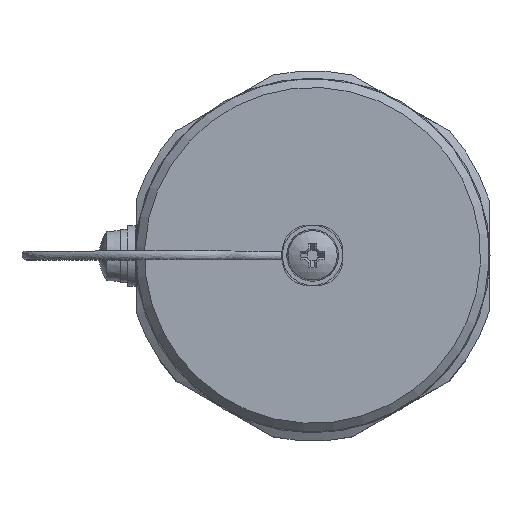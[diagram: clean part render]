
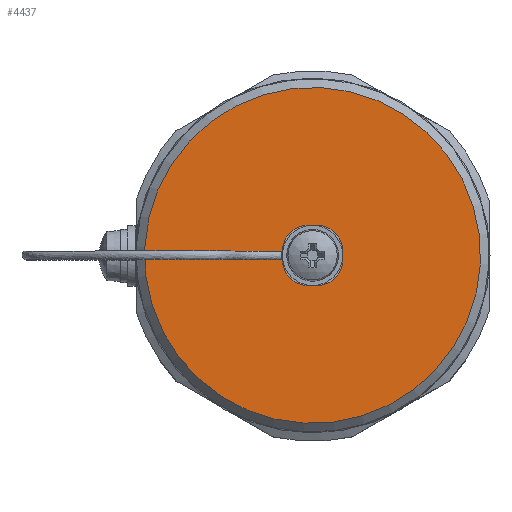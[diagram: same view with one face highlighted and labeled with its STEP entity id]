
A CAD part, top view. The second image highlights one B-rep face of the part: STEP entity #4437.
In plain terms, the highlighted planar face has unit normal (0, 0, 1).
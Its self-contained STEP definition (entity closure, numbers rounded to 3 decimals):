
#2 = CARTESIAN_POINT ( 'NONE',  ( -0.5, -0.5, 36. ) ) ;
#45 = CARTESIAN_POINT ( 'NONE',  ( 3.5, 0.5, 36. ) ) ;
#238 = AXIS2_PLACEMENT_3D ( 'NONE', #4214, #6870, #2459 ) ;
#267 = DIRECTION ( 'NONE',  ( 0., 0., 1. ) ) ;
#288 = CARTESIAN_POINT ( 'NONE',  ( -3.676, -0.491, 36. ) ) ;
#311 = CARTESIAN_POINT ( 'NONE',  ( -3.589, 0.5, 36. ) ) ;
#337 = CIRCLE ( 'NONE', #3531, 3. ) ;
#428 = DIRECTION ( 'NONE',  ( 1., 0., 0. ) ) ;
#473 = DIRECTION ( 'NONE',  ( -1., 0., 0. ) ) ;
#558 = DIRECTION ( 'NONE',  ( 1., 0., 0. ) ) ;
#579 = VERTEX_POINT ( 'NONE', #45 ) ;
#803 = CARTESIAN_POINT ( 'NONE',  ( 3.5, -0.5, 36. ) ) ;
#910 = EDGE_CURVE ( 'NONE', #1010, #5654, #2463, .T. ) ;
#1010 = VERTEX_POINT ( 'NONE', #1121 ) ;
#1121 = CARTESIAN_POINT ( 'NONE',  ( -0.5, 3.5, 36. ) ) ;
#1129 = VECTOR ( 'NONE', #428, 1000. ) ;
#1168 = CARTESIAN_POINT ( 'NONE',  ( -3.5, 0.5, 36. ) ) ;
#1196 = CARTESIAN_POINT ( 'NONE',  ( -18.641, -5.723, 36. ) ) ;
#1340 = CARTESIAN_POINT ( 'NONE',  ( -4.331, -0.09, 36. ) ) ;
#1391 = CARTESIAN_POINT ( 'NONE',  ( -4.167, 0.303, 36. ) ) ;
#1427 = ORIENTED_EDGE ( 'NONE', *, *, #1511, .F. ) ;
#1511 = EDGE_CURVE ( 'NONE', #6487, #2218, #5156, .T. ) ;
#1807 = CARTESIAN_POINT ( 'NONE',  ( 0.5, 0.5, 36. ) ) ;
#1829 = EDGE_CURVE ( 'NONE', #579, #2218, #6855, .T. ) ;
#1830 = CARTESIAN_POINT ( 'NONE',  ( -3.676, 0.491, 36. ) ) ;
#1846 = CARTESIAN_POINT ( 'NONE',  ( 0.5, -3.5, 36. ) ) ;
#1862 = VERTEX_POINT ( 'NONE', #1168 ) ;
#2009 = CARTESIAN_POINT ( 'NONE',  ( 0.5, -3.5, 36. ) ) ;
#2054 = AXIS2_PLACEMENT_3D ( 'NONE', #1807, #6759, #5158 ) ;
#2115 = ORIENTED_EDGE ( 'NONE', *, *, #6170, .F. ) ;
#2135 = CARTESIAN_POINT ( 'NONE',  ( 0., 0., 36. ) ) ;
#2218 = VERTEX_POINT ( 'NONE', #803 ) ;
#2219 = EDGE_CURVE ( 'NONE', #1862, #5497, #4252, .T. ) ;
#2320 = CARTESIAN_POINT ( 'NONE',  ( -4.328, 0.089, 36. ) ) ;
#2344 = FACE_OUTER_BOUND ( 'NONE', #3139, .T. ) ;
#2381 = VERTEX_POINT ( 'NONE', #1196 ) ;
#2427 = DIRECTION ( 'NONE',  ( 0.707, -0.707, 0. ) ) ;
#2439 = ORIENTED_EDGE ( 'NONE', *, *, #4682, .F. ) ;
#2459 = DIRECTION ( 'NONE',  ( -0.707, 0.707, 0. ) ) ;
#2463 = LINE ( 'NONE', #6367, #1129 ) ;
#2613 = EDGE_CURVE ( 'NONE', #6487, #3522, #2767, .T. ) ;
#2767 = LINE ( 'NONE', #2009, #4662 ) ;
#2878 = CARTESIAN_POINT ( 'NONE',  ( -3.5, 0.5, 36. ) ) ;
#2899 = CARTESIAN_POINT ( 'NONE',  ( -3.847, -0.456, 36. ) ) ;
#2949 = CARTESIAN_POINT ( 'NONE',  ( -3.932, -0.428, 36. ) ) ;
#3124 = DIRECTION ( 'NONE',  ( 0., 0., 1. ) ) ;
#3133 = FACE_BOUND ( 'NONE', #4573, .T. ) ;
#3139 = EDGE_LOOP ( 'NONE', ( #3605 ) ) ;
#3176 = ORIENTED_EDGE ( 'NONE', *, *, #1829, .T. ) ;
#3227 = PLANE ( 'NONE',  #3239 ) ;
#3238 = ORIENTED_EDGE ( 'NONE', *, *, #6574, .F. ) ;
#3239 = AXIS2_PLACEMENT_3D ( 'NONE', #2135, #3792, #558 ) ;
#3252 = CARTESIAN_POINT ( 'NONE',  ( -3.5, -0.5, 36. ) ) ;
#3429 = ORIENTED_EDGE ( 'NONE', *, *, #910, .T. ) ;
#3441 = CARTESIAN_POINT ( 'NONE',  ( -3.588, -0.499, 36. ) ) ;
#3517 = CARTESIAN_POINT ( 'NONE',  ( -3.847, 0.455, 36. ) ) ;
#3522 = VERTEX_POINT ( 'NONE', #4867 ) ;
#3531 = AXIS2_PLACEMENT_3D ( 'NONE', #2, #3124, #3687 ) ;
#3605 = ORIENTED_EDGE ( 'NONE', *, *, #6712, .F. ) ;
#3687 = DIRECTION ( 'NONE',  ( -0.707, -0.707, 0. ) ) ;
#3792 = DIRECTION ( 'NONE',  ( 0., 0., 1. ) ) ;
#3797 = CIRCLE ( 'NONE', #238, 3. ) ;
#3983 = VECTOR ( 'NONE', #6002, 1000. ) ;
#4048 = CARTESIAN_POINT ( 'NONE',  ( -3.932, 0.428, 36. ) ) ;
#4214 = CARTESIAN_POINT ( 'NONE',  ( -0.5, 0.5, 36. ) ) ;
#4252 = B_SPLINE_CURVE_WITH_KNOTS ( 'NONE', 3,
 ( #2878, #311, #1830, #3517, #4048, #6193, #1391, #4598, #2320, #1340, #5086, #5131, #5184, #2949, #2899, #288, #3441, #5581 ),
 .UNSPECIFIED., .F., .F.,
 ( 4, 2, 2, 2, 2, 2, 2, 2, 4 ),
 ( 0., 0., 0.001, 0.001, 0.001, 0.001, 0.002, 0.002, 0.002 ),
 .UNSPECIFIED. ) ;
#4338 = DIRECTION ( 'NONE',  ( 0., 0., -1. ) ) ;
#4437 = ADVANCED_FACE ( 'NONE', ( #3133, #2344 ), #3227, .T. ) ;
#4477 = ORIENTED_EDGE ( 'NONE', *, *, #2613, .T. ) ;
#4557 = AXIS2_PLACEMENT_3D ( 'NONE', #5159, #267, #2427 ) ;
#4573 = EDGE_LOOP ( 'NONE', ( #2439, #3176, #1427, #4477, #2115, #5797, #3238, #3429 ) ) ;
#4598 = CARTESIAN_POINT ( 'NONE',  ( -4.285, 0.173, 36. ) ) ;
#4662 = VECTOR ( 'NONE', #473, 1000. ) ;
#4682 = EDGE_CURVE ( 'NONE', #579, #5654, #5183, .T. ) ;
#4806 = CARTESIAN_POINT ( 'NONE',  ( 0., 0., 36. ) ) ;
#4867 = CARTESIAN_POINT ( 'NONE',  ( -0.5, -3.5, 36. ) ) ;
#4875 = DIRECTION ( 'NONE',  ( -0.956, -0.293, 0. ) ) ;
#5086 = CARTESIAN_POINT ( 'NONE',  ( -4.286, -0.174, 36. ) ) ;
#5131 = CARTESIAN_POINT ( 'NONE',  ( -4.165, -0.302, 36. ) ) ;
#5156 = CIRCLE ( 'NONE', #4557, 3. ) ;
#5158 = DIRECTION ( 'NONE',  ( 0.707, 0.707, 0. ) ) ;
#5159 = CARTESIAN_POINT ( 'NONE',  ( 0.5, -0.5, 36. ) ) ;
#5183 = CIRCLE ( 'NONE', #2054, 3. ) ;
#5184 = CARTESIAN_POINT ( 'NONE',  ( -4.09, -0.352, 36. ) ) ;
#5451 = CARTESIAN_POINT ( 'NONE',  ( 3.5, 0.5, 36. ) ) ;
#5497 = VERTEX_POINT ( 'NONE', #3252 ) ;
#5581 = CARTESIAN_POINT ( 'NONE',  ( -3.5, -0.5, 36. ) ) ;
#5654 = VERTEX_POINT ( 'NONE', #5658 ) ;
#5658 = CARTESIAN_POINT ( 'NONE',  ( 0.5, 3.5, 36. ) ) ;
#5785 = AXIS2_PLACEMENT_3D ( 'NONE', #4806, #4338, #4875 ) ;
#5797 = ORIENTED_EDGE ( 'NONE', *, *, #2219, .F. ) ;
#6002 = DIRECTION ( 'NONE',  ( 0., -1., 0. ) ) ;
#6170 = EDGE_CURVE ( 'NONE', #5497, #3522, #337, .T. ) ;
#6193 = CARTESIAN_POINT ( 'NONE',  ( -4.091, 0.352, 36. ) ) ;
#6367 = CARTESIAN_POINT ( 'NONE',  ( -0.5, 3.5, 36. ) ) ;
#6487 = VERTEX_POINT ( 'NONE', #1846 ) ;
#6574 = EDGE_CURVE ( 'NONE', #1010, #1862, #3797, .T. ) ;
#6647 = CIRCLE ( 'NONE', #5785, 19.5 ) ;
#6712 = EDGE_CURVE ( 'NONE', #2381, #2381, #6647, .T. ) ;
#6759 = DIRECTION ( 'NONE',  ( 0., 0., 1. ) ) ;
#6855 = LINE ( 'NONE', #5451, #3983 ) ;
#6870 = DIRECTION ( 'NONE',  ( 0., 0., 1. ) ) ;
